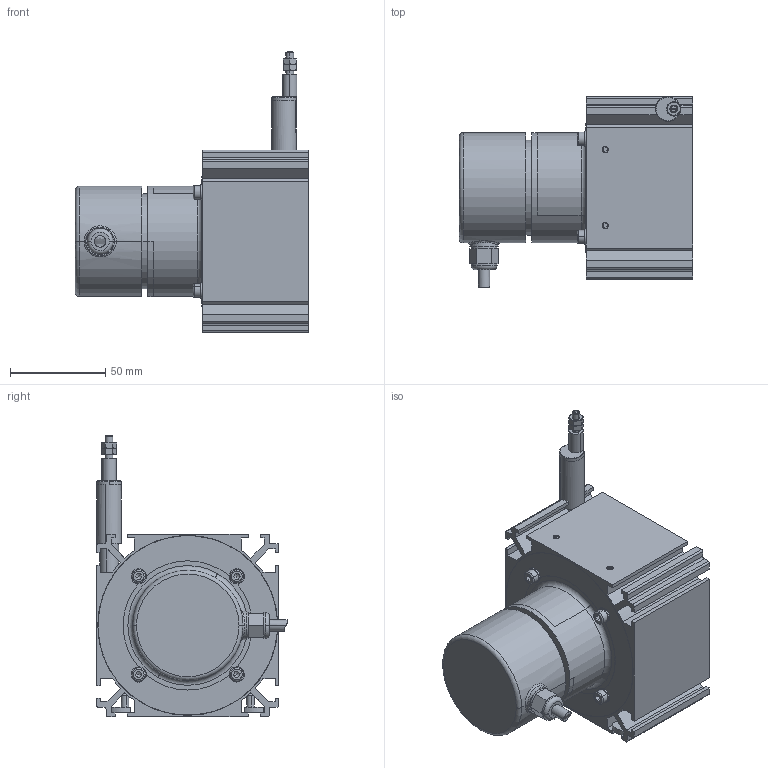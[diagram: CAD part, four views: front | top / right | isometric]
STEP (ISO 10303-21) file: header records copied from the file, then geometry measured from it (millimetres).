
FILE_DESCRIPTION((''),'2;1');
FILE_NAME('','2007-03-19T',(''),(''),'PRO/ENGINEER BY PARAMETRIC TECHNOLOGY CORPORATION, 2003250','PRO/ENGINEER BY PARAMETRIC TECHNOLOGY CORPORATION, 2003250','');
FILE_SCHEMA(('CONFIG_CONTROL_DESIGN'));
Length unit declared in the file: millimetre
Bounding box: 122.7 x 100.46 x 148 mm (x, y, z)
Volume: 359910.1 mm3; surface area: 108155.3 mm2
Topology: 1 solids, 8 shells, 576 faces, 1568 edges, 999 vertices
Faces by surface type: plane 276, cylinder 183, cone 72, torus 42, bspline 2, extrusion 1
Entity records: 19786 total; most frequent: CARTESIAN_POINT 5085, DIRECTION 3120, ORIENTED_EDGE 3068, EDGE_CURVE 1534, AXIS2_PLACEMENT_3D 1179, VERTEX_POINT 999, VECTOR 762, LINE 761
